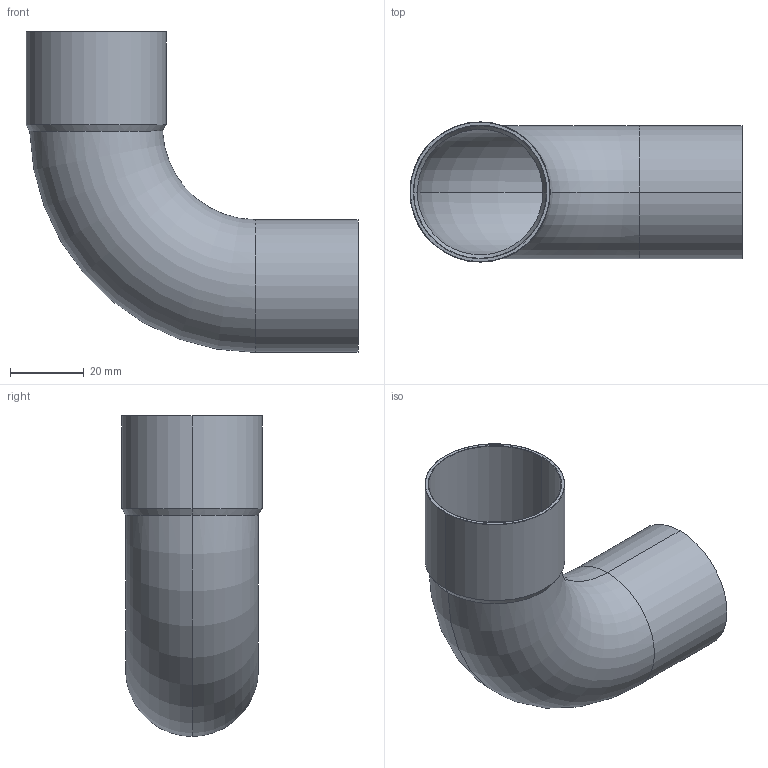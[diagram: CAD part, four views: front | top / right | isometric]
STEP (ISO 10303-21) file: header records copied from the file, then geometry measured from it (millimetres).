
FILE_DESCRIPTION((''),'2;1');
FILE_NAME('P:\Bouwmaten\z-maattekeningen 3D\5000\5001a\15001a36.stp','2005-10-04T14:45:06',('Kris'),(''),'Autodesk Inventor 8','Autodesk Inventor 8','');
FILE_SCHEMA(('AUTOMOTIVE_DESIGN { 1 0 10303 214 1 1 1 1 }'));
Length unit declared in the file: millimetre
Products named in the file (1): 15001a36
Bounding box: 90 x 38 x 87 mm (x, y, z)
Volume: 13547.5 mm3; surface area: 27309.8 mm2
Topology: 1 solids, 1 shells, 22 faces, 46 edges, 26 vertices
Faces by surface type: cone 8, cylinder 8, torus 4, plane 2
Entity records: 679 total; most frequent: CARTESIAN_POINT 171, DIRECTION 114, ORIENTED_EDGE 92, AXIS2_PLACEMENT_3D 49, EDGE_CURVE 46, VERTEX_POINT 26, CIRCLE 26, EDGE_LOOP 24
